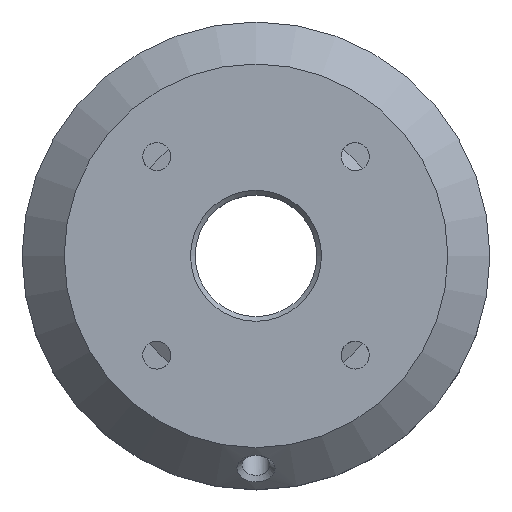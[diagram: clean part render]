
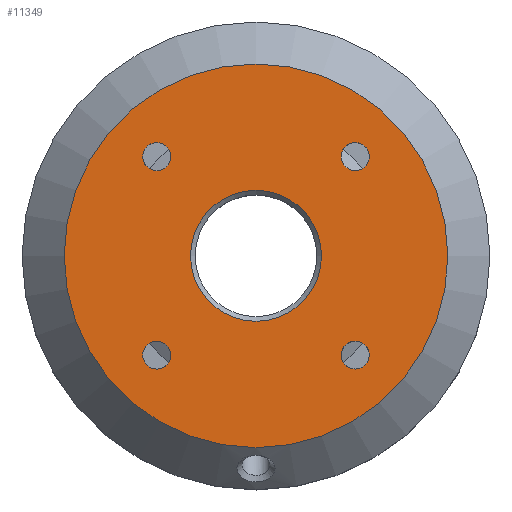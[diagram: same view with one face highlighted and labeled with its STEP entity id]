
A CAD part, top view. The second image highlights one B-rep face of the part: STEP entity #11349.
In plain terms, the highlighted planar face has unit normal (0, 0, 1).
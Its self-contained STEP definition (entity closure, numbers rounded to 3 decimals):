
#10774=CARTESIAN_POINT('',(10.607,-12.107,18.));
#10775=VERTEX_POINT('',#10774);
#10776=CARTESIAN_POINT('',(10.607,-10.607,18.));
#10777=DIRECTION('',(0.0,0.0,-1.0));
#10778=DIRECTION('',(0.0,1.0,0.0));
#10779=AXIS2_PLACEMENT_3D('',#10776,#10777,#10778);
#10780=CIRCLE('',#10779,1.5);
#10781=EDGE_CURVE('',#10775,#10775,#10780,.T.);
#10849=CARTESIAN_POINT('',(-12.107,-10.607,18.));
#10850=VERTEX_POINT('',#10849);
#10851=CARTESIAN_POINT('',(-10.607,-10.607,18.));
#10852=DIRECTION('',(0.0,0.0,-1.0));
#10853=DIRECTION('',(1.0,0.0,0.0));
#10854=AXIS2_PLACEMENT_3D('',#10851,#10852,#10853);
#10855=CIRCLE('',#10854,1.5);
#10856=EDGE_CURVE('',#10850,#10850,#10855,.T.);
#10924=CARTESIAN_POINT('',(-10.607,12.107,18.));
#10925=VERTEX_POINT('',#10924);
#10926=CARTESIAN_POINT('',(-10.607,10.607,18.));
#10927=DIRECTION('',(0.0,0.0,-1.0));
#10928=DIRECTION('',(0.0,-1.0,0.0));
#10929=AXIS2_PLACEMENT_3D('',#10926,#10927,#10928);
#10930=CIRCLE('',#10929,1.5);
#10931=EDGE_CURVE('',#10925,#10925,#10930,.T.);
#11099=CARTESIAN_POINT('',(12.107,10.607,18.));
#11100=VERTEX_POINT('',#11099);
#11101=CARTESIAN_POINT('',(10.607,10.607,18.));
#11102=DIRECTION('',(0.0,0.0,-1.0));
#11103=DIRECTION('',(-1.0,0.0,0.0));
#11104=AXIS2_PLACEMENT_3D('',#11101,#11102,#11103);
#11105=CIRCLE('',#11104,1.5);
#11106=EDGE_CURVE('',#11100,#11100,#11105,.T.);
#11263=CARTESIAN_POINT('',(0.0,-20.5,18.));
#11264=VERTEX_POINT('',#11263);
#11265=CARTESIAN_POINT('',(0.0,0.,18.));
#11266=DIRECTION('',(0.0,0.0,1.0));
#11267=DIRECTION('',(0.0,-1.0,0.0));
#11268=AXIS2_PLACEMENT_3D('',#11265,#11266,#11267);
#11269=CIRCLE('',#11268,20.5);
#11270=EDGE_CURVE('',#11264,#11264,#11269,.T.);
#11294=CARTESIAN_POINT('',(7.,0.,18.));
#11295=VERTEX_POINT('',#11294);
#11296=CARTESIAN_POINT('',(0.0,0.,18.));
#11297=DIRECTION('',(0.0,0.0,1.0));
#11298=DIRECTION('',(-1.0,0.0,0.0));
#11299=AXIS2_PLACEMENT_3D('',#11296,#11297,#11298);
#11300=CIRCLE('',#11299,7.);
#11301=EDGE_CURVE('',#11295,#11295,#11300,.T.);
#11326=CARTESIAN_POINT('',(0.0,0.,18.));
#11327=DIRECTION('',(0.0,0.0,-1.0));
#11328=DIRECTION('',(-1.0,0.0,0.0));
#11329=AXIS2_PLACEMENT_3D('',#11326,#11327,#11328);
#11330=PLANE('',#11329);
#11331=ORIENTED_EDGE('',*,*,#11270,.T.);
#11332=EDGE_LOOP('',(#11331));
#11333=FACE_OUTER_BOUND('',#11332,.T.);
#11334=ORIENTED_EDGE('',*,*,#10781,.T.);
#11335=EDGE_LOOP('',(#11334));
#11336=FACE_BOUND('',#11335,.T.);
#11337=ORIENTED_EDGE('',*,*,#10856,.T.);
#11338=EDGE_LOOP('',(#11337));
#11339=FACE_BOUND('',#11338,.T.);
#11340=ORIENTED_EDGE('',*,*,#10931,.T.);
#11341=EDGE_LOOP('',(#11340));
#11342=FACE_BOUND('',#11341,.T.);
#11343=ORIENTED_EDGE('',*,*,#11106,.T.);
#11344=EDGE_LOOP('',(#11343));
#11345=FACE_BOUND('',#11344,.T.);
#11346=ORIENTED_EDGE('',*,*,#11301,.F.);
#11347=EDGE_LOOP('',(#11346));
#11348=FACE_BOUND('',#11347,.T.);
#11349=ADVANCED_FACE('',(#11333,#11336,#11339,#11342,#11345,#11348),#11330,.F.);
